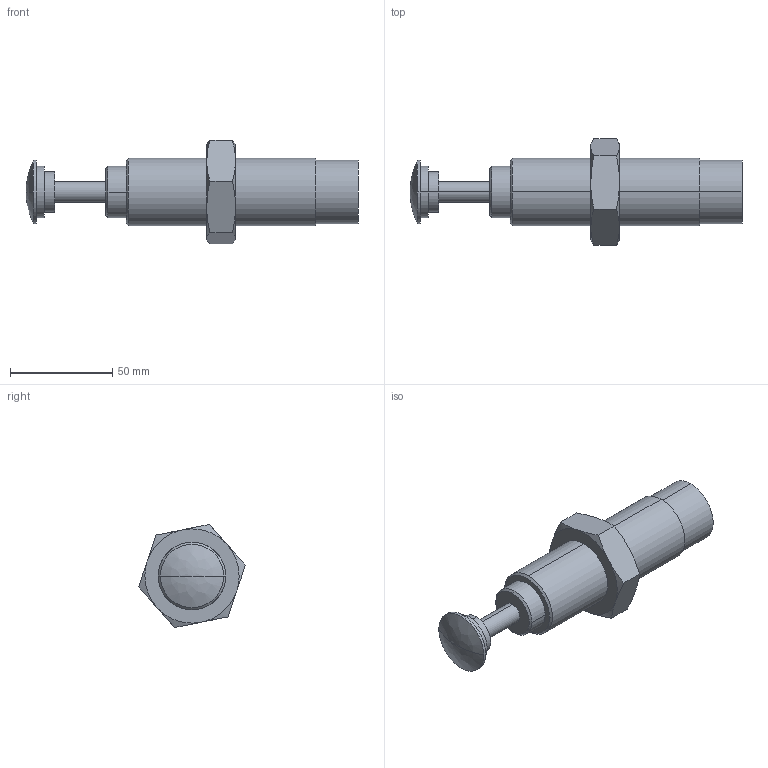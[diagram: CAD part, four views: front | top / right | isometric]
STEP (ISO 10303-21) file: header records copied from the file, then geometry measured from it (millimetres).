
FILE_DESCRIPTION (( 'STEP AP203' ), '1' );
FILE_NAME ('FSA-3325CD.STEP', '2016-03-17T07:48:16', ( 'Sam Lin' ), ( '' ), 'SwSTEP 2.0', 'SolidWorks 2013', '' );
FILE_SCHEMA (( 'CONFIG_CONTROL_DESIGN' ));
Length unit declared in the file: metre
Products named in the file (3): FSA-3325CD_1; M33x1.5-14mm_1; FSA-3325CD
Assembly tree (2 placements, depth 2):
  FSA-3325CD
    FSA-3325CD_1
    M33x1.5-14mm_1
Bounding box: 162 x 52.06 x 50.35 mm (x, y, z)
Volume: 120877.4 mm3; surface area: 22423.2 mm2
Topology: 2 solids, 2 shells, 49 faces, 108 edges, 67 vertices
Faces by surface type: cylinder 16, plane 15, bspline 14, cone 4
Entity records: 2003 total; most frequent: CARTESIAN_POINT 725, ORIENTED_EDGE 212, DIRECTION 194, EDGE_CURVE 106, AXIS2_PLACEMENT_3D 84, VERTEX_POINT 67, EDGE_LOOP 57, FACE_OUTER_BOUND 49
